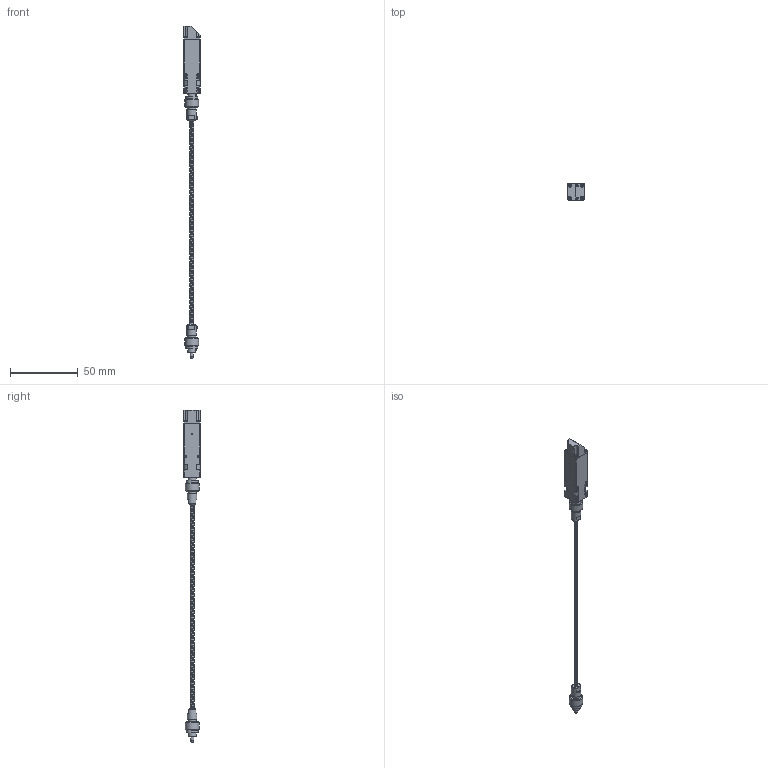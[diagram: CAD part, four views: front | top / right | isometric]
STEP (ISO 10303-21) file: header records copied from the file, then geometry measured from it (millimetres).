
FILE_DESCRIPTION(/* description */ ('IFS2407-4(HT)/VAC'),/* implementation_level */ '2;1');
FILE_NAME(/* name */ '104320_IFS2404_90-4HT_VAC.stp',/* time_stamp */ '2025-11-28T08:42:18+01:00',/* author */ ('sven'),/* organization */ (''),/* preprocessor_version */ 'ST-DEVELOPER v20.1',/* originating_system */ 'Autodesk Inventor 2026',/* authorisation */ '');
FILE_SCHEMA (('AUTOMOTIVE_DESIGN { 1 0 10303 214 3 1 1 }'));
Products named in the file (7): 104318_IFS2407-4(HT)_step; 90010378-1CUS_HTFaser; 104336_Fassung; DIN 914 - M2 x 3; Linse; 103448_deflectionunit; DIN 84 - M1,4 x 2
Assembly tree (16 placements, depth 2):
  104318_IFS2407-4(HT)_step
    90010378-1CUS_HTFaser
    104336_Fassung
    DIN 914 - M2 x 3  x8
    Linse
    103448_deflectionunit
    DIN 84 - M1,4 x 2  x4
Bounding box: 12 x 12.08 x 244.34 mm (x, y, z)
Volume: 8975.6 mm3; surface area: 10610.6 mm2
Topology: 16 solids, 18 shells, 328 faces, 823 edges, 536 vertices
Faces by surface type: plane 161, cylinder 91, cone 60, bspline 8, torus 8
Full cylindrical faces by diameter (mm): 0.729 x2, 1.183 x4, 1.2 x1, 1.238 x4, 1.4 x4, 1.5 x8, 1.567 x16, 2 x10, 2.5 x2, 6 x2, 7 x2, 8.8 x2, 10 x2, 10.6 x1, 11.2 x2
Entity records: 44602 total; most frequent: CARTESIAN_POINT 39033, DIRECTION 1071, ORIENTED_EDGE 1052, EDGE_CURVE 526, AXIS2_PLACEMENT_3D 401, VERTEX_POINT 350, EDGE_LOOP 278, LINE 269
